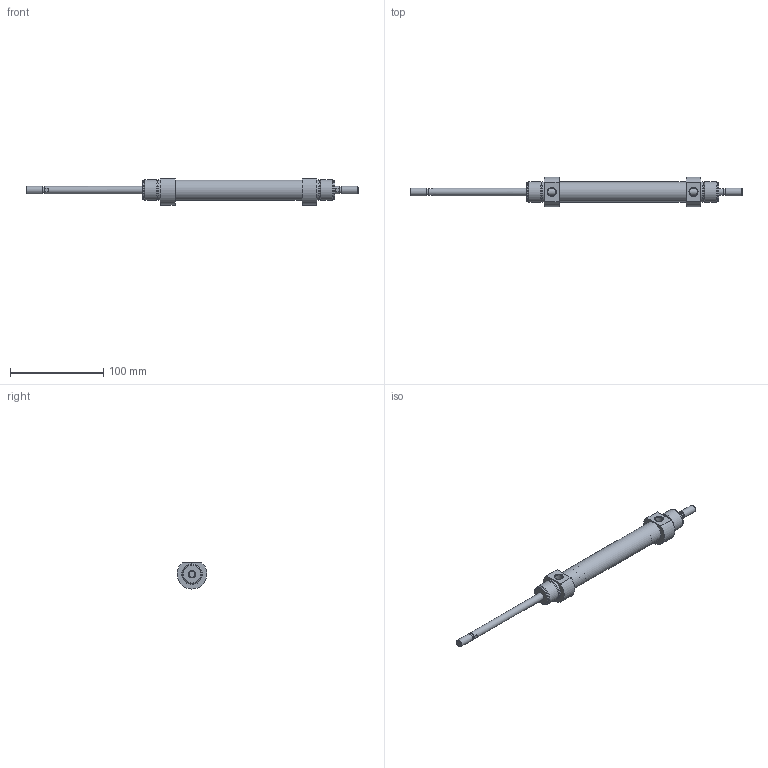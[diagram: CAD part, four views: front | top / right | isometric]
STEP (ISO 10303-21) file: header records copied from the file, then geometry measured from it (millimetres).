
FILE_DESCRIPTION( ( 'STEP AP203' ), '1' );
FILE_NAME( '//expscmdclustefs.cadenas.external/client_exchange/iodir/jobs/output/wkb68460732_no0/STEP/M101-020-0100-M__0__2_03.stp', ' ', ( ' ' ), ( ' ' ), 'PSStep 15.0.47', 'PARTsolutions', ' ' );
FILE_SCHEMA( ( 'CONFIG_CONTROL_DESIGN' ) );
Length unit declared in the file: millimetre
Products named in the file (3): M101-020-0100-M [0]; HI_M101-020-0100-M-[0]-z; HI_M101-020-0100-M-[0]-k
Assembly tree (2 placements, depth 2):
  M101-020-0100-M [0]
    HI_M101-020-0100-M-[0]-z
    HI_M101-020-0100-M-[0]-k
Bounding box: 356 x 32 x 28 mm (x, y, z)
Volume: 67740.6 mm3; surface area: 37090.1 mm2
Topology: 2 solids, 2 shells, 65 faces, 129 edges, 80 vertices
Faces by surface type: plane 26, cylinder 23, cone 14, torus 2
Full cylindrical faces by diameter (mm): 6.466 x2, 8 x6, 8.566 x2, 20 x2, 20.16 x4, 21.6 x1, 22 x4
Entity records: 1702 total; most frequent: CARTESIAN_POINT 356, DIRECTION 280, ORIENTED_EDGE 184, AXIS2_PLACEMENT_3D 128, EDGE_LOOP 116, EDGE_CURVE 92, FACE_OUTER_BOUND 88, VERTEX_POINT 76
